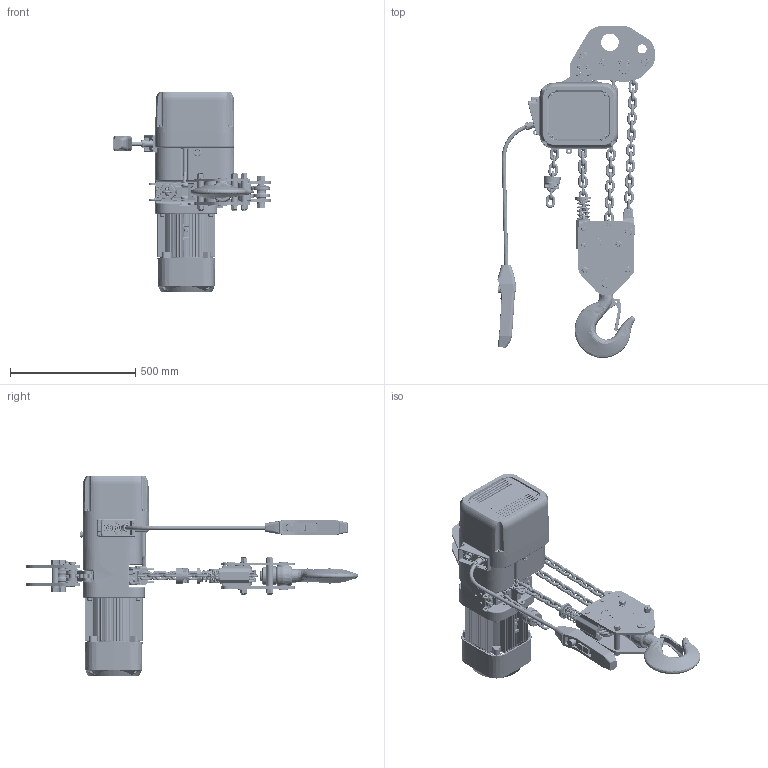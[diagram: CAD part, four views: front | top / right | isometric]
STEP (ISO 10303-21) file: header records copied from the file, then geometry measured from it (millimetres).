
FILE_DESCRIPTION (( 'STEP AP214' ), '1' );
FILE_NAME ('NER2080SD.STEP', '2026-08-04T13:03:14', ( '' ), ( '' ), 'SwSTEP 2.0', 'SolidWorks 2026', '' );
FILE_SCHEMA (( 'AUTOMOTIVE_DESIGN' ));
Length unit declared in the file: millimetre
Products named in the file (82): NER2025SD_For Hi Cap w Container; hex nut style 1_am_9093439; single coil rectangular section spring washer_bsi_9012711; ER2HS90031; Spring Lock Washer for M4; E6S041075; ER2FS9338; E6SE075S90401; ER2EI4511; pan cross head_am_B18.6.7M - M6 x 1.0 x 16 Type I Cross Recessed PHMS --16N; ER1FH9054; 9091254_9091254; 16-8P MR PB_5 ft; ES127005S; E6SE075S90671; ER2HS50041; ER2BHM20I9A5; ER2HS5051; LCER2025NP; NER2080SD; ER2HS2121; E6SE075S90622; E3S112003; E6SE075S50541; 9091255_9091255; E6SE075S90081; ER2CS9511; E6S023100; ER2FS9337; ER2HS90041; ER2HS90061; external tooth lock washer_am_PreviewCfg; ER2FS6121; ER2FS9101; ER2HS50051; ER2EI2564; C1BA10090302; ER1HS90161; ER2BHM75S9A6; ZB20025H5000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
Assembly tree (237 placements, depth 5):
  NER2080SD
    NER2025SD_For Hi Cap w Container
      ER2FI2104
        ER2FI9104_ER2FI9104
        ER2EI9185_ER2EI9185
        J1AP24001212  x4
          Spring Lock Washer for M4
          pan cross head_am_B18.6.7M - M6 x 1.0 x 16 Type I Cross Recessed PHMS --16N
      ER2FS9103
      ER2FS9101
      ER2FS9105
      ER2ES9107_ER2ES9107
      ER2FS9331
      ER2FS9338
      ER2FS9337
      ER2CS9357
      single coil rectangular section spring washer_bsi_9012711  x4
      9091294_9091294  x4
      9091255_9091255  x4
      90912116_90912116  x4
      external tooth lock washer_am_PreviewCfg  x4
      9091254_9091254  x4
      ES127005S
      ER1BS9135
      E3S112003
      E3S111003
      ER2EI4511
        ER2CS9511
        MS561010  x8
        ER2EI2523
        ER2EI2564
        ES558003  x8
      ER2FS6121
      ER1EM9053
      ER1ES1041
      LCER2025 NP (SHAPED 2)
        LCER2025NP  x12
      ER2BHM20I9A5
      LCER2025NP  x6
    ER2HS50051
      ER2HS90061
      ER1HS90161  x2
      ER2HS90051
    ER2HS50031
      ER2HS90031
      ER1HS90091
    ER2HS50041
      ER2HS90041
      ER1HS90091
    E6SE075S90081  x2
    ER1HS90561  x2
    single coil rectangular section spring washer_bsi_9012711  x4
    socket head cap screw_am_9091271  x4
    E7SE075S90071  x3
    spring lock washer_2_jis_9012717  x6
    hex nut style 1_am_9093445  x6
    E6SE075S90531
    ER2BHM75S9A6
    LCER2025 NP (8T SD)
      LCER2025NP  x66
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Bounding box: 629.81 x 1323.46 x 800.07 mm (x, y, z)
Volume: 46527387.6 mm3; surface area: 3931129.6 mm2
Topology: 245 solids, 249 shells, 8878 faces, 22260 edges, 13714 vertices
Faces by surface type: cylinder 3257, plane 2838, torus 1208, cone 679, bspline 601, sphere 295
Entity records: 249389 total; most frequent: CARTESIAN_POINT 93871, DIRECTION 31526, ORIENTED_EDGE 31314, EDGE_CURVE 15657, AXIS2_PLACEMENT_3D 12338, VERTEX_POINT 9784, LINE 6850, VECTOR 6850
